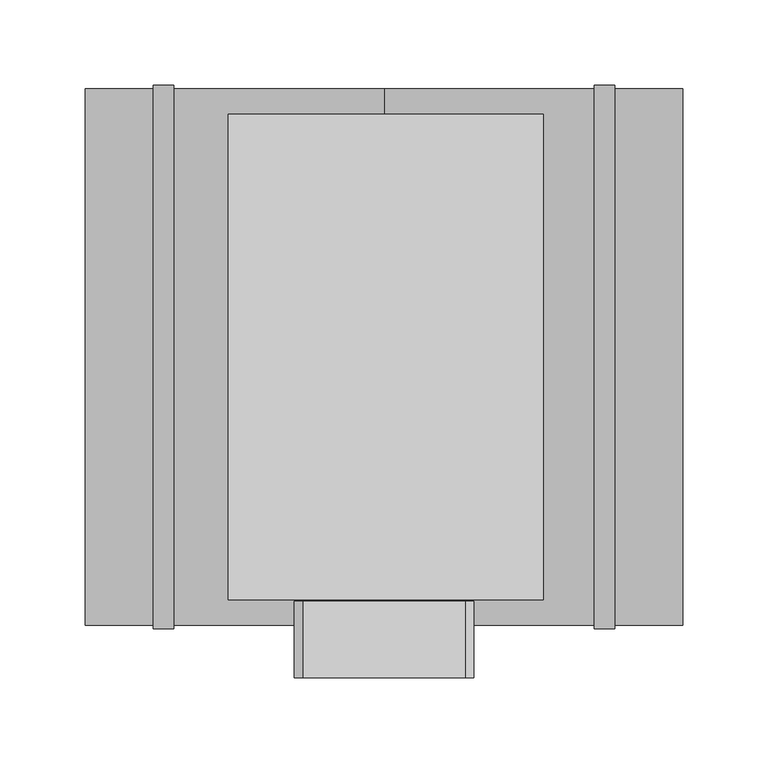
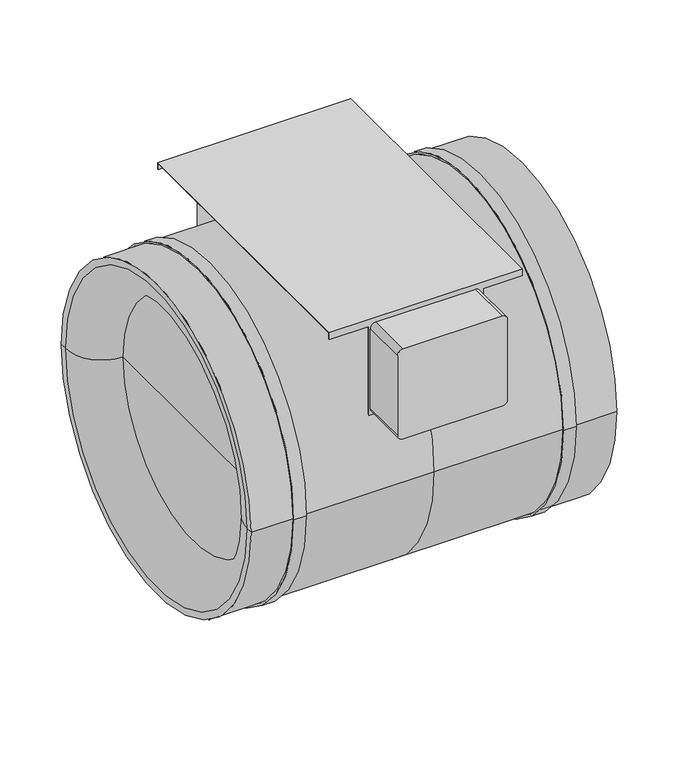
"""IFC4 building model written with IfcOpenShell, lengths in millimetres: unitary equipment geometry, VE-Wentylator-ParaForma-Harmann-JETTEC-Nawiewny : 315/3500S."""

from ifc_helpers import new_model, si_unit, point, frame, frame_2d, origin, place, context, project, spatial, polyline, circle_curve, ellipse_curve, trimmed, segment, composite_curve, outline, extrude, source, transform, mapped, element, save
from ifc_brep_helpers import plane_surface, cylinder_surface, revolved_surface, advanced_brep


def unitary_equipment_03b9eef8(model_context):
    return source(origin(), model_context, "Body", "SolidModel", [
        extrude(outline(composite_curve([segment(polyline([(69.1, -47.7), (69.1, 47.7)]), True, "CONTINUOUS"), segment(trimmed(circle_curve(frame_2d((74.1, 47.7)), 5.0), [point((69.1, 47.7))], [point((74.1, 52.7))], False, "CARTESIAN"), True, "CONTINUOUS"), segment(polyline([(74.1, 52.7), (155.1, 52.7)]), True, "CONTINUOUS"), segment(trimmed(circle_curve(frame_2d((155.1, 47.7)), 5.0), [point((155.1, 52.7))], [point((160.1, 47.7))], False, "CARTESIAN"), True, "CONTINUOUS"), segment(polyline([(160.1, 47.7), (160.1, -47.7)]), True, "CONTINUOUS"), segment(trimmed(circle_curve(frame_2d((155.1, -47.7)), 5.0), [point((160.1, -47.7))], [point((155.1, -52.7))], False, "CARTESIAN"), True, "CONTINUOUS"), segment(polyline([(155.1, -52.7), (74.1, -52.7)]), True, "CONTINUOUS"), segment(trimmed(circle_curve(frame_2d((74.1, -47.7)), 5.0), [point((74.1, -52.7))], [point((69.1, -47.7))], False, "CARTESIAN"), True, "CONTINUOUS")], self_intersect=False)), frame((0.0, -188.3, 0.0), z_axis=(0.0, 1.0, 0.0), x_axis=(0.0, 0.0, 1.0)), (0.0, 0.0, 1.0), 45.0),
        advanced_brep(
        [(93.5, 142.5, 157.5), (93.5, 142.5, 164.3), (93.5, -142.5, 164.3), (93.5, -142.5, 157.5), (93.5, -141.7, 157.5), (93.5, -141.7, 163.5), (93.5, 141.7, 163.5), (93.5, 141.7, 157.5), (56.0, 141.7, 157.5), (56.0, 142.5, 157.5), (-91.5, 141.7, 163.5), (-91.5, 141.7, 157.5), (-54.0, 141.7, 157.5), (-54.0, 141.7, 68.7557998), (56.0, 141.7, 68.7557998), (-91.5, -141.7, 163.5), (56.0, -141.7, 157.5), (56.0, -141.7, 68.7557998), (-54.0, -141.7, 68.7557998), (-54.0, -141.7, 157.5), (-91.5, -141.7, 157.5), (56.0, -142.5, 157.5), (-91.5, -142.5, 164.3), (-91.5, -142.5, 157.5), (-54.0, -142.5, 157.5), (-54.0, -142.5, 67.0820393), (56.0, -142.5, 67.0820393), (-91.5, 142.5, 164.3), (56.0, 142.5, 67.0820393), (-54.0, 142.5, 67.0820393), (-54.0, 142.5, 157.5), (-91.5, 142.5, 157.5)],
        [
            (0, 1),
            (1, 2),
            (2, 3),
            (3, 4),
            (4, 5),
            (5, 6),
            (6, 7),
            (7, 0),
            (7, 8),
            (8, 9),
            (9, 0),
            (6, 10),
            (10, 11),
            (11, 12),
            (12, 13),
            (13, 14),
            (14, 8),
            (5, 15),
            (15, 10),
            (4, 16),
            (16, 17),
            (17, 18),
            (18, 19),
            (19, 20),
            (20, 15),
            (3, 21),
            (21, 16),
            (2, 22),
            (22, 23),
            (23, 24),
            (24, 25),
            (25, 26),
            (26, 21),
            (1, 27),
            (27, 22),
            (9, 28),
            (28, 29),
            (29, 30),
            (30, 31),
            (31, 27),
            (29, 13, circle_curve(frame((-54.0, 0.0, 0.0), z_axis=(1.0, 0.0, 0.0), x_axis=(0.0, 1.0, 0.0)), 157.5)),
            (12, 30),
            (18, 25, circle_curve(frame((-54.0, 0.0, 0.0), z_axis=(1.0, 0.0, 0.0), x_axis=(0.0, 1.0, 0.0)), 157.5)),
            (24, 19),
            (14, 28, circle_curve(frame((56.0, 0.0, 0.0), z_axis=(-1.0, 0.0, 0.0), x_axis=(0.0, 1.0, 0.0)), 157.5)),
            (26, 17, circle_curve(frame((56.0, 0.0, 0.0), z_axis=(-1.0, 0.0, 0.0), x_axis=(0.0, 1.0, 0.0)), 157.5)),
            (31, 11),
            (20, 23),
        ],
        [
            plane_surface(frame((93.5, 0.0, 0.0), z_axis=(1.0, 0.0, 0.0), x_axis=(0.0, 0.0, 1.0))),
            plane_surface(frame((56.0, 142.5, 157.5), z_axis=(0.0, 0.0, -1.0), x_axis=(1.0, 0.0, 0.0))),
            plane_surface(frame((56.0, 141.7, 157.5), z_axis=(0.0, -1.0, 0.0), x_axis=(1.0, 0.0, 0.0))),
            plane_surface(frame((56.0, -133.0382235, 163.5), z_axis=(0.0, 0.0, -1.0), x_axis=(1.0, 0.0, 0.0))),
            plane_surface(frame((56.0, -141.7, 163.5), z_axis=(0.0, 1.0, 0.0), x_axis=(1.0, 0.0, 0.0))),
            plane_surface(frame((56.0, -141.7, 157.5), z_axis=(0.0, 0.0, -1.0), x_axis=(1.0, 0.0, 0.0))),
            plane_surface(frame((56.0, -142.5, 157.5), z_axis=(0.0, -1.0, 0.0), x_axis=(1.0, 0.0, 0.0))),
            plane_surface(frame((56.0, 132.5, 164.3), z_axis=(0.0, 0.0, 1.0), x_axis=(1.0, 0.0, 0.0))),
            plane_surface(frame((56.0, 142.5, 164.3), z_axis=(0.0, 1.0, 0.0), x_axis=(1.0, 0.0, 0.0))),
            plane_surface(frame((-54.0, 0.0, 0.0), z_axis=(-1.0, 0.0, 0.0), x_axis=(0.0, 0.0, 1.0))),
            plane_surface(frame((56.0, 0.0, 0.0), z_axis=(1.0, 0.0, 0.0), x_axis=(0.0, 0.0, 1.0))),
            revolved_surface(polyline([(-54.0, 157.5, 0.0), (56.0, 157.5, 0.0)]), (-54.0, 0.0, 0.0), (-1.0, 0.0, 0.0)),
            plane_surface(frame((-91.5, 0.0, 0.0), z_axis=(-1.0, 0.0, 0.0), x_axis=(0.0, 0.0, 1.0))),
            plane_surface(frame((-91.5, 142.5, 157.5), z_axis=(0.0, 0.0, -1.0), x_axis=(1.0, 0.0, 0.0))),
            plane_surface(frame((-91.5, -141.7, 157.5), z_axis=(0.0, 0.0, -1.0), x_axis=(1.0, 0.0, 0.0))),
        ],
        [
            (0, [[1, 2, 3, 4, 5, 6, 7, 8]]),
            (1, [[-8, 9, 10, 11]]),
            (2, [[-7, 12, 13, 14, 15, 16, 17, -9]]),
            (3, [[-12, -6, 18, 19]]),
            (4, [[-18, -5, 20, 21, 22, 23, 24, 25]]),
            (5, [[-4, 26, 27, -20]]),
            (6, [[-3, 28, 29, 30, 31, 32, 33, -26]]),
            (7, [[-28, -2, 34, 35]]),
            (8, [[-34, -1, -11, 36, 37, 38, 39, 40]]),
            (9, [[41, -15, 42, -38]]),
            (9, [[43, -31, 44, -23]]),
            (10, [[45, -36, -10, -17]]),
            (10, [[46, -21, -27, -33]]),
            (11, [[-41, -37, -45, -16]]),
            (11, [[-43, -22, -46, -32]]),
            (12, [[47, -13, -19, -25, 48, -29, -35, -40]]),
            (13, [[-47, -39, -42, -14]]),
            (14, [[-48, -24, -44, -30]]),
        ],
    ),
        advanced_brep(
        [(-123.4, 157.5, 0.0), (0.0, 157.5, 0.0), (0.0, -157.5, 0.0), (-123.4, -157.5, 0.0), (-175.4, -157.5, 0.0), (-175.4, 157.5, 0.0), (-135.4, 157.5, 0.0), (-135.4, -157.5, 0.0), (-175.4, -151.0, 0.0), (-175.4, 151.0, 0.0), (-140.4, -116.0, 0.0), (-140.4, 116.0, 0.0), (-140.4, 0.0, 0.0), (175.4, -157.5, 0.0), (175.4, 157.5, 0.0), (175.4, 0.0, 0.0), (135.4, -157.5, 0.0), (135.4, 157.5, 0.0), (123.4, 157.5, 0.0), (123.4, -157.5, 0.0), (-123.4, -159.5, 0.0), (-123.4, 159.5, 0.0), (-135.4, -159.5, 0.0), (-135.4, 159.5, 0.0), (135.4, -159.5, 0.0), (135.4, 159.5, 0.0), (123.4, -159.5, 0.0), (123.4, 159.5, 0.0)],
        [
            (0, 1),
            (1, 2, circle_curve(frame((0.0, 0.0, 0.0), z_axis=(-1.0, 0.0, 0.0), x_axis=(0.0, 1.0, 0.0)), 157.5)),
            (2, 3),
            (3, 0, circle_curve(frame((-123.4, 0.0, 0.0), z_axis=(1.0, 0.0, 0.0), x_axis=(0.0, 1.0, 0.0)), 157.5)),
            (0, 3, circle_curve(frame((-123.4, 0.0, 0.0), z_axis=(1.0, 0.0, 0.0), x_axis=(0.0, 1.0, 0.0)), 157.5)),
            (2, 1, circle_curve(frame((0.0, 0.0, 0.0), z_axis=(-1.0, 0.0, 0.0), x_axis=(0.0, 1.0, 0.0)), 157.5)),
            (4, 5, circle_curve(frame((-175.4, 0.0, 0.0), z_axis=(1.0, 0.0, 0.0), x_axis=(0.0, 1.0, 0.0)), 157.5)),
            (5, 6),
            (6, 7, circle_curve(frame((-135.4, 0.0, 0.0), z_axis=(-1.0, 0.0, 0.0), x_axis=(0.0, 1.0, 0.0)), 157.5)),
            (7, 4),
            (5, 4, circle_curve(frame((-175.4, 0.0, 0.0), z_axis=(1.0, 0.0, 0.0), x_axis=(0.0, 1.0, 0.0)), 157.5)),
            (7, 6, circle_curve(frame((-135.4, 0.0, 0.0), z_axis=(-1.0, 0.0, 0.0), x_axis=(0.0, 1.0, 0.0)), 157.5)),
            (4, 8),
            (8, 9, circle_curve(frame((-175.4, 0.0, 0.0), z_axis=(1.0, 0.0, 0.0), x_axis=(0.0, 1.0, 0.0)), 151.0)),
            (9, 5),
            (9, 8, circle_curve(frame((-175.4, 0.0, 0.0), z_axis=(1.0, 0.0, 0.0), x_axis=(0.0, 1.0, 0.0)), 151.0)),
            (8, 10, circle_curve(frame((-140.4, -151.0, 0.0), z_axis=(0.0, 0.0, -1.0), x_axis=(1.0, 0.0, 0.0)), 35.0)),
            (10, 11, circle_curve(frame((-140.4, 0.0, 0.0), z_axis=(1.0, 0.0, 0.0), x_axis=(0.0, 1.0, 0.0)), 116.0)),
            (11, 9, circle_curve(frame((-140.4, 151.0, 0.0), z_axis=(0.0, 0.0, -1.0), x_axis=(1.0, 0.0, 0.0)), 35.0)),
            (11, 10, circle_curve(frame((-140.4, 0.0, 0.0), z_axis=(1.0, 0.0, 0.0), x_axis=(0.0, 1.0, 0.0)), 116.0)),
            (10, 12),
            (12, 11),
            (13, 14, circle_curve(frame((175.4, 0.0, 0.0), z_axis=(1.0, 0.0, 0.0), x_axis=(0.0, 1.0, 0.0)), 157.5)),
            (14, 15),
            (15, 13),
            (14, 13, circle_curve(frame((175.4, 0.0, 0.0), z_axis=(1.0, 0.0, 0.0), x_axis=(0.0, 1.0, 0.0)), 157.5)),
            (13, 16),
            (16, 17, circle_curve(frame((135.4, 0.0, 0.0), z_axis=(1.0, 0.0, 0.0), x_axis=(0.0, 1.0, 0.0)), 157.5)),
            (17, 14),
            (17, 16, circle_curve(frame((135.4, 0.0, 0.0), z_axis=(1.0, 0.0, 0.0), x_axis=(0.0, 1.0, 0.0)), 157.5)),
            (1, 18),
            (18, 19, circle_curve(frame((123.4, 0.0, 0.0), z_axis=(-1.0, 0.0, 0.0), x_axis=(0.0, 1.0, 0.0)), 157.5)),
            (19, 2),
            (19, 18, circle_curve(frame((123.4, 0.0, 0.0), z_axis=(-1.0, 0.0, 0.0), x_axis=(0.0, 1.0, 0.0)), 157.5)),
            (20, 21, circle_curve(frame((-123.4, 0.0, 0.0), z_axis=(1.0, 0.0, 0.0), x_axis=(0.0, 1.0, 0.0)), 159.5)),
            (21, 0),
            (3, 20),
            (21, 20, circle_curve(frame((-123.4, 0.0, 0.0), z_axis=(1.0, 0.0, 0.0), x_axis=(0.0, 1.0, 0.0)), 159.5)),
            (20, 22),
            (22, 23, circle_curve(frame((-135.4, 0.0, 0.0), z_axis=(1.0, 0.0, 0.0), x_axis=(0.0, 1.0, 0.0)), 159.5)),
            (23, 21),
            (23, 22, circle_curve(frame((-135.4, 0.0, 0.0), z_axis=(1.0, 0.0, 0.0), x_axis=(0.0, 1.0, 0.0)), 159.5)),
            (22, 7),
            (6, 23),
            (24, 25, circle_curve(frame((135.4, 0.0, 0.0), z_axis=(1.0, 0.0, 0.0), x_axis=(0.0, 1.0, 0.0)), 159.5)),
            (25, 17),
            (16, 24),
            (25, 24, circle_curve(frame((135.4, 0.0, 0.0), z_axis=(1.0, 0.0, 0.0), x_axis=(0.0, 1.0, 0.0)), 159.5)),
            (24, 26),
            (26, 27, circle_curve(frame((123.4, 0.0, 0.0), z_axis=(1.0, 0.0, 0.0), x_axis=(0.0, 1.0, 0.0)), 159.5)),
            (27, 25),
            (27, 26, circle_curve(frame((123.4, 0.0, 0.0), z_axis=(1.0, 0.0, 0.0), x_axis=(0.0, 1.0, 0.0)), 159.5)),
            (26, 19),
            (18, 27),
        ],
        [
            cylinder_surface(frame((-140.4, 0.0, 0.0), z_axis=(-1.0, 0.0, 0.0), x_axis=(0.0, 1.0, 0.0)), 157.5),
            plane_surface(frame((-175.4, 0.0, 0.0), z_axis=(-1.0, 0.0, 0.0), x_axis=(0.0, 1.0, 0.0))),
            revolved_surface(trimmed(ellipse_curve(frame((-140.4, 151.0, 0.0), z_axis=(0.0, 0.0, 1.0), x_axis=(1.0, 0.0, 0.0)), 35.0, 35.0), [point((-175.4, 151.0, 0.0))], [point((-140.4, 116.0, 0.0))], True, "CARTESIAN"), (-140.4, 0.0, 0.0), (-1.0, 0.0, 0.0)),
            plane_surface(frame((-140.4, 0.0, 0.0), z_axis=(-1.0, 0.0, 0.0), x_axis=(0.0, 1.0, 0.0))),
            plane_surface(frame((175.4, 0.0, 0.0), z_axis=(1.0, 0.0, 0.0), x_axis=(0.0, 1.0, 0.0))),
            cylinder_surface(frame((0.0, 0.0, 0.0), z_axis=(-1.0, 0.0, 0.0), x_axis=(0.0, 1.0, 0.0)), 157.5),
            plane_surface(frame((-123.4, 0.0, 0.0), z_axis=(1.0, 0.0, 0.0), x_axis=(0.0, 1.0, 0.0))),
            cylinder_surface(frame((-135.4, 0.0, 0.0), z_axis=(-1.0, 0.0, 0.0), x_axis=(0.0, 1.0, 0.0)), 159.5),
            plane_surface(frame((-135.4, 0.0, 0.0), z_axis=(-1.0, 0.0, 0.0), x_axis=(0.0, 1.0, 0.0))),
            plane_surface(frame((135.4, 0.0, 0.0), z_axis=(1.0, 0.0, 0.0), x_axis=(0.0, 1.0, 0.0))),
            plane_surface(frame((123.4, 0.0, 0.0), z_axis=(-1.0, 0.0, 0.0), x_axis=(0.0, 1.0, 0.0))),
        ],
        [
            (0, [[1, 2, 3, 4]]),
            (0, [[-1, 5, -3, 6]]),
            (0, [[7, 8, 9, 10]]),
            (0, [[-8, 11, -10, 12]]),
            (1, [[-7, 13, 14, 15]]),
            (1, [[-11, -15, 16, -13]]),
            (2, [[-14, 17, 18, 19]]),
            (2, [[-16, -19, 20, -17]]),
            (3, [[-18, 21, 22]]),
            (3, [[-20, -22, -21]]),
            (4, [[23, 24, 25]]),
            (4, [[-24, 26, -25]]),
            (5, [[-23, 27, 28, 29]]),
            (5, [[-26, -29, 30, -27]]),
            (5, [[31, 32, 33, -2]]),
            (5, [[-31, -6, -33, 34]]),
            (6, [[35, 36, -4, 37]]),
            (6, [[38, -37, -5, -36]]),
            (7, [[-35, 39, 40, 41]]),
            (7, [[-38, -41, 42, -39]]),
            (8, [[-40, 43, -9, 44]]),
            (8, [[-42, -44, -12, -43]]),
            (9, [[45, 46, -28, 47]]),
            (9, [[48, -47, -30, -46]]),
            (7, [[-45, 49, 50, 51]]),
            (7, [[-48, -51, 52, -49]]),
            (10, [[-50, 53, -32, 54]]),
            (10, [[-52, -54, -34, -53]]),
        ],
    ),
    ])


if __name__ == "__main__":
    model = new_model("IFC4")
    model_context = context("Model", 3, world=origin())
    ifc_project = project(units=[si_unit("LENGTHUNIT", "METRE", prefix="MILLI")], contexts=[model_context])
    site = spatial("IfcSite", under=ifc_project)
    building = spatial("IfcBuilding", under=site)
    placement = place(None, origin())
    unitary_equipment_shape = unitary_equipment_03b9eef8(model_context)
    element("IfcUnitaryEquipment", 1, ObjectType="VE-Wentylator-ParaForma-Harmann-JETTEC-Nawiewny : 315/3500S", at=placement, inside=building, context=model_context, shape_type="MappedRepresentation", body=[
        mapped(unitary_equipment_shape, transform((0.0, 0.0, 0.0), x_axis=(1.0, 0.0, 0.0), y_axis=(0.0, 1.0, 0.0), z_axis=(0.0, 0.0, 1.0))),
    ])
    save(model, "model.ifc")
